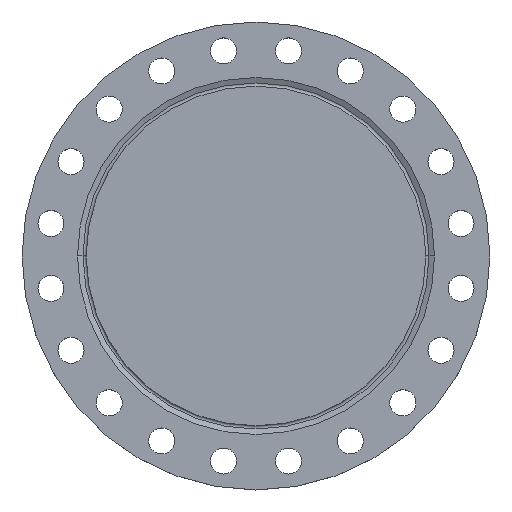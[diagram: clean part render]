
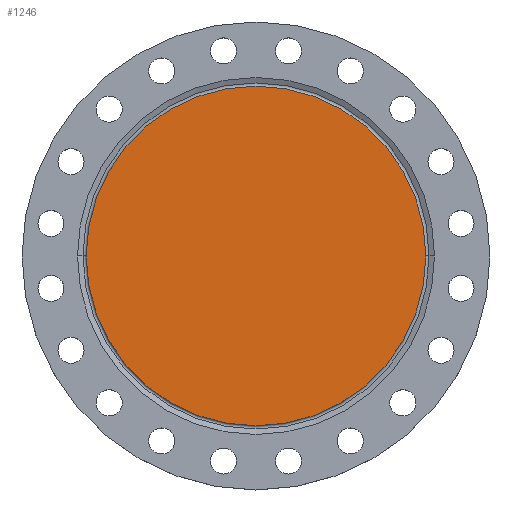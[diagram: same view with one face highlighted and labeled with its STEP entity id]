
A CAD part, top view. The second image highlights one B-rep face of the part: STEP entity #1246.
In plain terms, the highlighted planar face has unit normal (0, 0, 1).
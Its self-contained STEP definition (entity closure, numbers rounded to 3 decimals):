
#55 = AXIS2_PLACEMENT_3D ( 'NONE', #81, #753, #1354 ) ;
#81 = CARTESIAN_POINT ( 'NONE',  ( 0., 0., 0. ) ) ;
#85 = DIRECTION ( 'NONE',  ( 1., 0., 0. ) ) ;
#155 = CARTESIAN_POINT ( 'NONE',  ( 274., 0., 0. ) ) ;
#164 = CIRCLE ( 'NONE', #382, 274. ) ;
#241 = PLANE ( 'NONE',  #650 ) ;
#306 = VERTEX_POINT ( 'NONE', #1057 ) ;
#382 = AXIS2_PLACEMENT_3D ( 'NONE', #531, #1135, #1677 ) ;
#468 = EDGE_LOOP ( 'NONE', ( #1371, #1421 ) ) ;
#531 = CARTESIAN_POINT ( 'NONE',  ( 0., 0., 0. ) ) ;
#650 = AXIS2_PLACEMENT_3D ( 'NONE', #931, #1480, #85 ) ;
#753 = DIRECTION ( 'NONE',  ( 0., 0., -1. ) ) ;
#931 = CARTESIAN_POINT ( 'NONE',  ( 0., 0., 0. ) ) ;
#1016 = VERTEX_POINT ( 'NONE', #155 ) ;
#1057 = CARTESIAN_POINT ( 'NONE',  ( -274., 0., 0. ) ) ;
#1135 = DIRECTION ( 'NONE',  ( 0., 0., -1. ) ) ;
#1246 = ADVANCED_FACE ( 'NONE', ( #1615 ), #241, .T. ) ;
#1354 = DIRECTION ( 'NONE',  ( -1., 0., 0. ) ) ;
#1371 = ORIENTED_EDGE ( 'NONE', *, *, #1595, .F. ) ;
#1381 = EDGE_CURVE ( 'NONE', #1016, #306, #164, .T. ) ;
#1421 = ORIENTED_EDGE ( 'NONE', *, *, #1381, .F. ) ;
#1480 = DIRECTION ( 'NONE',  ( 0., 0., 1. ) ) ;
#1544 = CIRCLE ( 'NONE', #55, 274. ) ;
#1595 = EDGE_CURVE ( 'NONE', #306, #1016, #1544, .T. ) ;
#1615 = FACE_OUTER_BOUND ( 'NONE', #468, .T. ) ;
#1677 = DIRECTION ( 'NONE',  ( -1., 0., 0. ) ) ;
